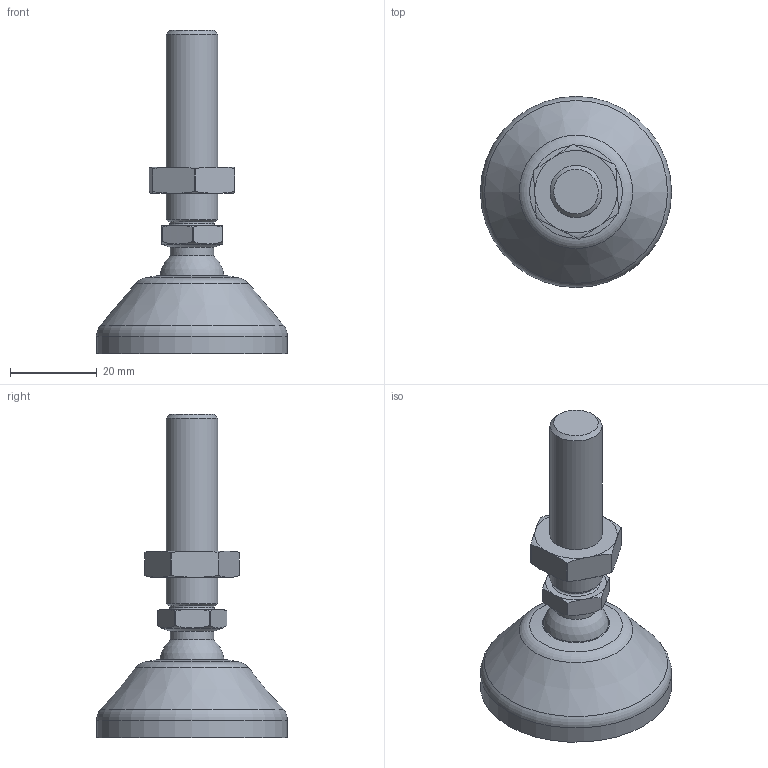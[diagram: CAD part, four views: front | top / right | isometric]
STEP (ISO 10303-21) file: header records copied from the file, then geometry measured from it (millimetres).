
FILE_DESCRIPTION(('STEP AP242'),'1');
FILE_NAME('TAPID45M12045PA.stp','2026-10-12T10:05:35',(' '),(' '),'Spatial InterOp 3D',' ',' ');
FILE_SCHEMA(('AP242_MANAGED_MODEL_BASED_3D_ENGINEERING_MIM_LF {1 0 10303 442 1 1 4}'));
Length unit declared in the file: millimetre
Products named in the file (5): Pied Ø45 M12x45 articulé réglable (+/- 7,5mm); Ecrou H DIN 439 M12; Tige filetée M12x45 (Ø15); Embase PA Ø45 (Ø15); TAPID45M12045PA
Assembly tree (4 placements, depth 3):
  TAPID45M12045PA
    Pied Ø45 M12x45 articulé réglable (+/- 7,5mm)
      Ecrou H DIN 439 M12
      Tige filetée M12x45 (Ø15)
      Embase PA Ø45 (Ø15)
Bounding box: 44 x 44 x 74.5 mm (x, y, z)
Volume: 24065.3 mm3; surface area: 9112.7 mm2
Topology: 3 solids, 4 shells, 81 faces, 176 edges, 105 vertices
Faces by surface type: torus 30, plane 22, cylinder 20, cone 7, sphere 2
Full cylindrical faces by diameter (mm): 10 x1, 10.2 x1, 10.25 x1, 12 x1, 15 x1, 15.5 x1, 34 x1, 44 x1
Entity records: 3425 total; most frequent: CARTESIAN_POINT 912, DIRECTION 350, ORIENTED_EDGE 296, AXIS2_PLACEMENT_3D 163, EDGE_CURVE 148, EDGE_LOOP 108, VERTEX_POINT 100, FACE_OUTER_BOUND 95
